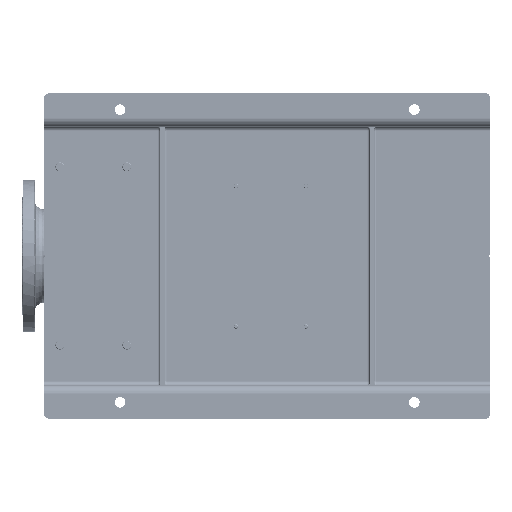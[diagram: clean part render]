
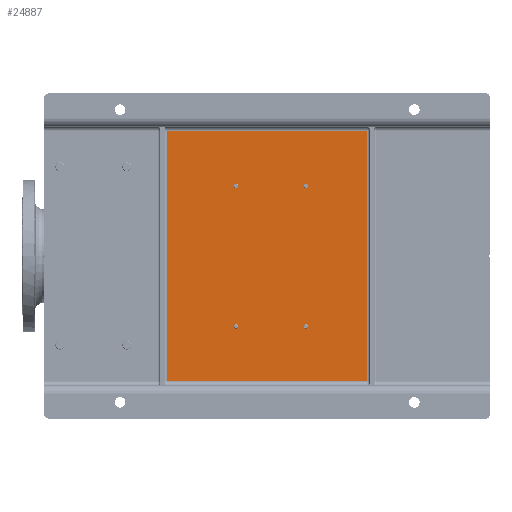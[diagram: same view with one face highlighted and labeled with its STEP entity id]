
A CAD part, front view. The second image highlights one B-rep face of the part: STEP entity #24887.
In plain terms, the highlighted planar face has unit normal (0, -1, 0).
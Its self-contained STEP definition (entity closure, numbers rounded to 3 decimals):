
#3010 = ORIENTED_EDGE ( 'NONE', *, *, #107101, .T. ) ;
#5232 = CARTESIAN_POINT ( 'NONE',  ( 212.5, 90., -430.1 ) ) ;
#5283 = CARTESIAN_POINT ( 'NONE',  ( 212.5, 90., -587.1 ) ) ;
#5328 = FACE_BOUND ( 'NONE', #5919, .T. ) ;
#5919 = EDGE_LOOP ( 'NONE', ( #31285, #63578 ) ) ;
#10157 = DIRECTION ( 'NONE',  ( 0., 1., 0. ) ) ;
#11357 = CARTESIAN_POINT ( 'NONE',  ( 85., 90., -730. ) ) ;
#14651 = VECTOR ( 'NONE', #139310, 1000. ) ;
#16877 = DIRECTION ( 'NONE',  ( 0., 0., -1. ) ) ;
#18191 = AXIS2_PLACEMENT_3D ( 'NONE', #153679, #172400, #173414 ) ;
#19259 = DIRECTION ( 'NONE',  ( 0., 1., 0. ) ) ;
#21435 = CIRCLE ( 'NONE', #157736, 5. ) ;
#21618 = VERTEX_POINT ( 'NONE', #5232 ) ;
#22341 = DIRECTION ( 'NONE',  ( -1., 0., 0. ) ) ;
#22544 = VERTEX_POINT ( 'NONE', #111440 ) ;
#24221 = EDGE_CURVE ( 'NONE', #89588, #154271, #77447, .T. ) ;
#24887 = ADVANCED_FACE ( 'NONE', ( #115587, #179077, #5328, #68752, #64664 ), #174973, .T. ) ;
#25321 = CARTESIAN_POINT ( 'NONE',  ( 85., 90., -275. ) ) ;
#25970 = VERTEX_POINT ( 'NONE', #175630 ) ;
#26983 = LINE ( 'NONE', #11357, #14651 ) ;
#28217 = DIRECTION ( 'NONE',  ( 0., 1., 0. ) ) ;
#29264 = DIRECTION ( 'NONE',  ( 1., 0., 0. ) ) ;
#31285 = ORIENTED_EDGE ( 'NONE', *, *, #75212, .T. ) ;
#33383 = AXIS2_PLACEMENT_3D ( 'NONE', #155002, #153957, #44723 ) ;
#41802 = CARTESIAN_POINT ( 'NONE',  ( 207.5, 90., -430.1 ) ) ;
#44479 = VERTEX_POINT ( 'NONE', #142362 ) ;
#44509 = VERTEX_POINT ( 'NONE', #83964 ) ;
#44723 = DIRECTION ( 'NONE',  ( -1., 0., 0. ) ) ;
#45372 = CARTESIAN_POINT ( 'NONE',  ( 75., 90., -725. ) ) ;
#47562 = EDGE_CURVE ( 'NONE', #129882, #22544, #109938, .T. ) ;
#48642 = DIRECTION ( 'NONE',  ( -1., 0., 0. ) ) ;
#52986 = CIRCLE ( 'NONE', #62952, 5. ) ;
#53191 = CARTESIAN_POINT ( 'NONE',  ( 645., 90., -275. ) ) ;
#53358 = ORIENTED_EDGE ( 'NONE', *, *, #194174, .T. ) ;
#53558 = VERTEX_POINT ( 'NONE', #169171 ) ;
#56376 = DIRECTION ( 'NONE',  ( 1., 0., 0. ) ) ;
#57274 = DIRECTION ( 'NONE',  ( 0., 0., 1. ) ) ;
#59337 = CARTESIAN_POINT ( 'NONE',  ( 645., 90., -270. ) ) ;
#62952 = AXIS2_PLACEMENT_3D ( 'NONE', #41802, #167683, #56376 ) ;
#63578 = ORIENTED_EDGE ( 'NONE', *, *, #154904, .T. ) ;
#64664 = FACE_OUTER_BOUND ( 'NONE', #115716, .T. ) ;
#65154 = EDGE_CURVE ( 'NONE', #21618, #168198, #79523, .T. ) ;
#68752 = FACE_BOUND ( 'NONE', #124922, .T. ) ;
#75212 = EDGE_CURVE ( 'NONE', #44479, #53558, #21435, .T. ) ;
#75954 = AXIS2_PLACEMENT_3D ( 'NONE', #83687, #19259, #22341 ) ;
#77447 = LINE ( 'NONE', #96150, #129267 ) ;
#77571 = LINE ( 'NONE', #45372, #139256 ) ;
#79523 = CIRCLE ( 'NONE', #182454, 5. ) ;
#83687 = CARTESIAN_POINT ( 'NONE',  ( 522.5, 90., -430.1 ) ) ;
#83964 = CARTESIAN_POINT ( 'NONE',  ( 202.5, 90., -587.1 ) ) ;
#87042 = ORIENTED_EDGE ( 'NONE', *, *, #24221, .T. ) ;
#88159 = CARTESIAN_POINT ( 'NONE',  ( 522.5, 90., -587.1 ) ) ;
#89588 = VERTEX_POINT ( 'NONE', #53191 ) ;
#94588 = AXIS2_PLACEMENT_3D ( 'NONE', #191609, #95898, #16877 ) ;
#94992 = EDGE_CURVE ( 'NONE', #25970, #89588, #199813, .T. ) ;
#95898 = DIRECTION ( 'NONE',  ( 0., -1., 0. ) ) ;
#96150 = CARTESIAN_POINT ( 'NONE',  ( 75., 90., -275. ) ) ;
#99849 = AXIS2_PLACEMENT_3D ( 'NONE', #158204, #28217, #29264 ) ;
#102297 = DIRECTION ( 'NONE',  ( 0., 1., 0. ) ) ;
#103109 = CIRCLE ( 'NONE', #33383, 5. ) ;
#103320 = DIRECTION ( 'NONE',  ( 1., 0., 0. ) ) ;
#103758 = DIRECTION ( 'NONE',  ( -1., 0., 0. ) ) ;
#107031 = ORIENTED_EDGE ( 'NONE', *, *, #65154, .T. ) ;
#107101 = EDGE_CURVE ( 'NONE', #166862, #44509, #124479, .T. ) ;
#109708 = DIRECTION ( 'NONE',  ( -1., 0., 0. ) ) ;
#109938 = CIRCLE ( 'NONE', #199616, 5. ) ;
#111440 = CARTESIAN_POINT ( 'NONE',  ( 517.5, 90., -430.1 ) ) ;
#115587 = FACE_BOUND ( 'NONE', #189454, .T. ) ;
#115716 = EDGE_LOOP ( 'NONE', ( #128452, #172802, #122210, #87042 ) ) ;
#116892 = EDGE_CURVE ( 'NONE', #168198, #21618, #52986, .T. ) ;
#122024 = CIRCLE ( 'NONE', #75954, 5. ) ;
#122210 = ORIENTED_EDGE ( 'NONE', *, *, #94992, .T. ) ;
#124479 = CIRCLE ( 'NONE', #18191, 5. ) ;
#124531 = ORIENTED_EDGE ( 'NONE', *, *, #116892, .T. ) ;
#124922 = EDGE_LOOP ( 'NONE', ( #53358, #3010 ) ) ;
#128452 = ORIENTED_EDGE ( 'NONE', *, *, #129254, .T. ) ;
#128585 = CARTESIAN_POINT ( 'NONE',  ( 527.5, 90., -430.1 ) ) ;
#129254 = EDGE_CURVE ( 'NONE', #154271, #131490, #26983, .T. ) ;
#129267 = VECTOR ( 'NONE', #109708, 1000. ) ;
#129882 = VERTEX_POINT ( 'NONE', #128585 ) ;
#130255 = EDGE_LOOP ( 'NONE', ( #142048, #195329 ) ) ;
#131490 = VERTEX_POINT ( 'NONE', #188293 ) ;
#139256 = VECTOR ( 'NONE', #205547, 1000. ) ;
#139310 = DIRECTION ( 'NONE',  ( 0., 0., -1. ) ) ;
#139707 = CIRCLE ( 'NONE', #99849, 5. ) ;
#142048 = ORIENTED_EDGE ( 'NONE', *, *, #159393, .T. ) ;
#142362 = CARTESIAN_POINT ( 'NONE',  ( 517.5, 90., -587.1 ) ) ;
#153679 = CARTESIAN_POINT ( 'NONE',  ( 207.5, 90., -587.1 ) ) ;
#153957 = DIRECTION ( 'NONE',  ( 0., 1., 0. ) ) ;
#154271 = VERTEX_POINT ( 'NONE', #25321 ) ;
#154904 = EDGE_CURVE ( 'NONE', #53558, #44479, #103109, .T. ) ;
#155002 = CARTESIAN_POINT ( 'NONE',  ( 522.5, 90., -587.1 ) ) ;
#157736 = AXIS2_PLACEMENT_3D ( 'NONE', #88159, #10157, #103758 ) ;
#158204 = CARTESIAN_POINT ( 'NONE',  ( 207.5, 90., -587.1 ) ) ;
#159393 = EDGE_CURVE ( 'NONE', #22544, #129882, #122024, .T. ) ;
#162475 = EDGE_CURVE ( 'NONE', #131490, #25970, #77571, .T. ) ;
#166862 = VERTEX_POINT ( 'NONE', #5283 ) ;
#167683 = DIRECTION ( 'NONE',  ( 0., 1., 0. ) ) ;
#168198 = VERTEX_POINT ( 'NONE', #198887 ) ;
#169171 = CARTESIAN_POINT ( 'NONE',  ( 527.5, 90., -587.1 ) ) ;
#172400 = DIRECTION ( 'NONE',  ( 0., 1., 0. ) ) ;
#172802 = ORIENTED_EDGE ( 'NONE', *, *, #162475, .T. ) ;
#173414 = DIRECTION ( 'NONE',  ( 1., 0., 0. ) ) ;
#173499 = DIRECTION ( 'NONE',  ( 0., 1., 0. ) ) ;
#174973 = PLANE ( 'NONE',  #94588 ) ;
#175630 = CARTESIAN_POINT ( 'NONE',  ( 645., 90., -725. ) ) ;
#176589 = CARTESIAN_POINT ( 'NONE',  ( 522.5, 90., -430.1 ) ) ;
#178833 = VECTOR ( 'NONE', #57274, 1000. ) ;
#179077 = FACE_BOUND ( 'NONE', #130255, .T. ) ;
#182454 = AXIS2_PLACEMENT_3D ( 'NONE', #187254, #102297, #103320 ) ;
#187254 = CARTESIAN_POINT ( 'NONE',  ( 207.5, 90., -430.1 ) ) ;
#188293 = CARTESIAN_POINT ( 'NONE',  ( 85., 90., -725. ) ) ;
#189454 = EDGE_LOOP ( 'NONE', ( #124531, #107031 ) ) ;
#191609 = CARTESIAN_POINT ( 'NONE',  ( 75., 90., -1000. ) ) ;
#194174 = EDGE_CURVE ( 'NONE', #44509, #166862, #139707, .T. ) ;
#195329 = ORIENTED_EDGE ( 'NONE', *, *, #47562, .T. ) ;
#198887 = CARTESIAN_POINT ( 'NONE',  ( 202.5, 90., -430.1 ) ) ;
#199616 = AXIS2_PLACEMENT_3D ( 'NONE', #176589, #173499, #48642 ) ;
#199813 = LINE ( 'NONE', #59337, #178833 ) ;
#205547 = DIRECTION ( 'NONE',  ( 1., 0., 0. ) ) ;
